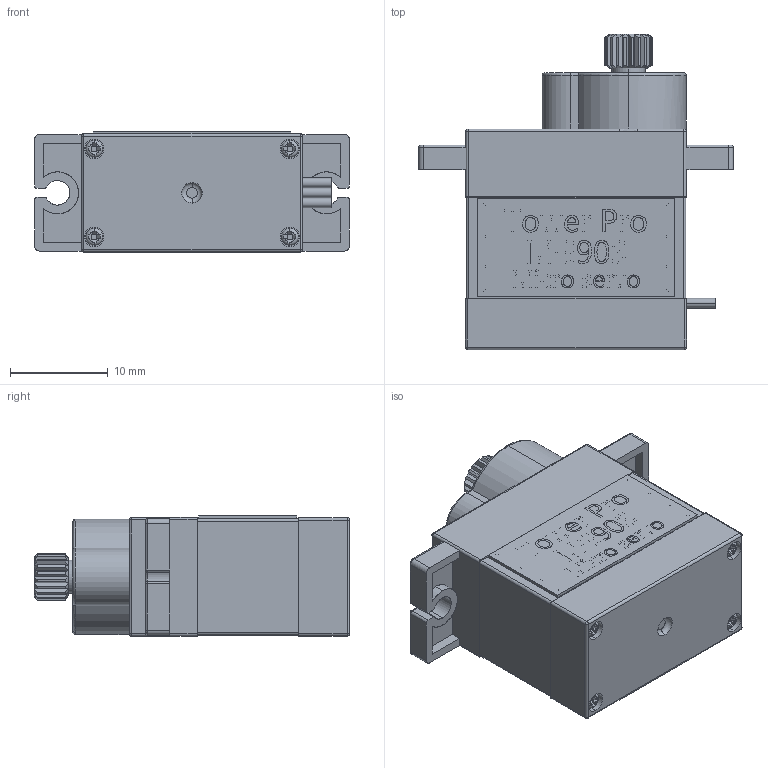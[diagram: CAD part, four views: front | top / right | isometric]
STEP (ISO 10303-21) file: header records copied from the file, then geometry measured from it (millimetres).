
FILE_DESCRIPTION (( 'STEP AP203' ), '1' );
FILE_NAME ('v4v3v2Tower Pro MG90S Micro servo.STEP', '2026-08-19T20:49:49', ( '' ), ( '' ), 'SwSTEP 2.0', 'SolidWorks 2024', '' );
FILE_SCHEMA (( 'CONFIG_CONTROL_DESIGN' ));
Products named in the file (1): v4v3v2Tower Pro MG90S Micro servo
Bounding box: 32.2 x 32.25 x 12.33 mm (x, y, z)
Surface area: 2920.8 mm2 (no closed solid volume)
Topology: 0 solids, 763 shells, 763 faces, 3834 edges, 3813 vertices
Faces by surface type: plane 372, bspline 160, cylinder 143, cone 46, torus 26, sphere 16
Entity records: 52857 total; most frequent: CARTESIAN_POINT 25762, DIRECTION 4619, ORIENTED_EDGE 3816, EDGE_CURVE 3816, VERTEX_POINT 3813, VECTOR 2101, LINE 2101, AXIS2_PLACEMENT_3D 1259
